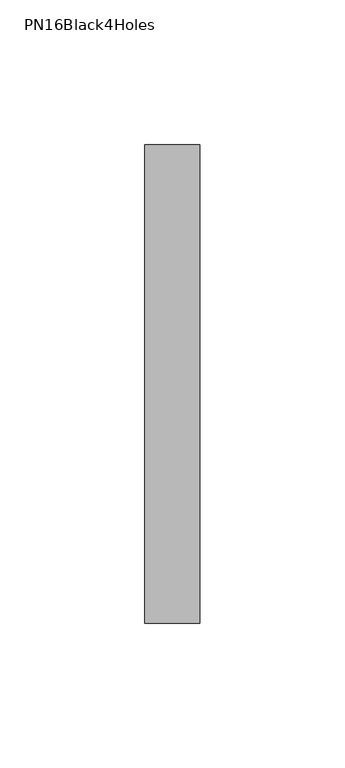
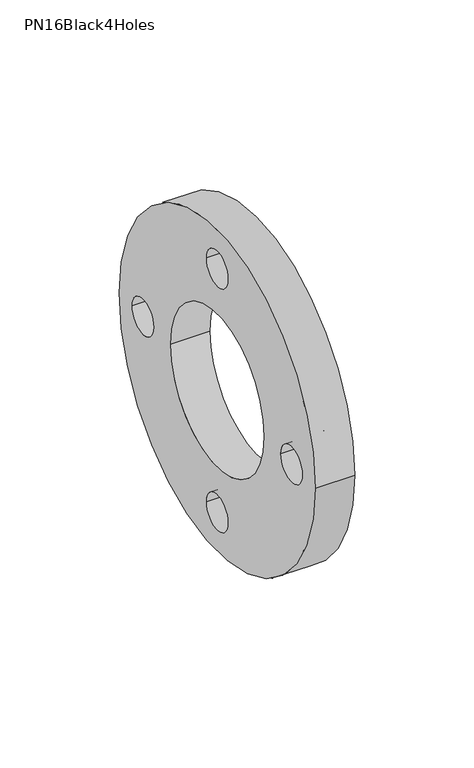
"""IFC4 building model written with IfcOpenShell, lengths in millimetres: pipe fitting geometry, PipeAccessory_GirpiHTA_CPVC_BackingRingsPN16Black4HolesFlangeAndGasket : PN16Black4Holes."""

from ifc_helpers import new_model, si_unit, point, frame, frame_2d, origin, origin_2d, place, context, project, spatial, circle_curve, trimmed, segment, composite_curve, outline, extrude, source, transform, mapped, element, save


def pn16black4holes_3e359ce1(model_context):
    return source(origin(), model_context, "Body", "SweptSolid", [
        extrude(outline(composite_curve([segment(trimmed(circle_curve(origin_2d(), 82.5), [point((-82.5, 0.0))], [point((82.5, 0.0))], False, "CARTESIAN"), True, "CONTINUOUS"), segment(trimmed(circle_curve(origin_2d(), 82.5), [point((82.5, 0.0))], [point((-82.5, 0.0))], False, "CARTESIAN"), True, "CONTINUOUS")], self_intersect=False), holes=[composite_curve([segment(trimmed(circle_curve(origin_2d(), 39.25), [point((-39.25, 0.0))], [point((39.25, 0.0))], True, "CARTESIAN"), True, "CONTINUOUS"), segment(trimmed(circle_curve(origin_2d(), 39.25), [point((39.25, 0.0))], [point((-39.25, 0.0))], True, "CARTESIAN"), True, "CONTINUOUS")], self_intersect=False), composite_curve([segment(trimmed(circle_curve(frame_2d((0.0, 62.5)), 9.0), [point((-9.0, 62.5))], [point((9.0, 62.5))], True, "CARTESIAN"), True, "CONTINUOUS"), segment(trimmed(circle_curve(frame_2d((0.0, 62.5)), 9.0), [point((9.0, 62.5))], [point((-9.0, 62.5))], True, "CARTESIAN"), True, "CONTINUOUS")], self_intersect=False), composite_curve([segment(trimmed(circle_curve(frame_2d((62.5, 0.0)), 9.0), [point((53.5, 0.0))], [point((71.5, 0.0))], True, "CARTESIAN"), True, "CONTINUOUS"), segment(trimmed(circle_curve(frame_2d((62.5, 0.0)), 9.0), [point((71.5, 0.0))], [point((53.5, 0.0))], True, "CARTESIAN"), True, "CONTINUOUS")], self_intersect=False), composite_curve([segment(trimmed(circle_curve(frame_2d((0.0, -62.5)), 9.0), [point((-9.0, -62.5))], [point((9.0, -62.5))], True, "CARTESIAN"), True, "CONTINUOUS"), segment(trimmed(circle_curve(frame_2d((0.0, -62.5)), 9.0), [point((9.0, -62.5))], [point((-9.0, -62.5))], True, "CARTESIAN"), True, "CONTINUOUS")], self_intersect=False), composite_curve([segment(trimmed(circle_curve(frame_2d((-62.5, 0.0)), 9.0), [point((-71.5, 0.0))], [point((-53.5, 0.0))], True, "CARTESIAN"), True, "CONTINUOUS"), segment(trimmed(circle_curve(frame_2d((-62.5, 0.0)), 9.0), [point((-53.5, 0.0))], [point((-71.5, 0.0))], True, "CARTESIAN"), True, "CONTINUOUS")], self_intersect=False)]), frame((-9.5, 0.0, 0.0), z_axis=(1.0, 0.0, 0.0), x_axis=(0.0, 1.0, 0.0)), (0.0, 0.0, 1.0), 19.0),
    ])


if __name__ == "__main__":
    model = new_model("IFC4")
    model_context = context("Model", 3, world=origin())
    ifc_project = project(units=[si_unit("LENGTHUNIT", "METRE", prefix="MILLI")], contexts=[model_context])
    site = spatial("IfcSite", under=ifc_project)
    building = spatial("IfcBuilding", under=site)
    placement = place(None, origin())
    pn16black4holes_shape = pn16black4holes_3e359ce1(model_context)
    element("IfcPipeFitting", 1, ObjectType="PipeAccessory_GirpiHTA_CPVC_BackingRingsPN16Black4HolesFlangeAndGasket : PN16Black4Holes", at=placement, inside=building, context=model_context, shape_type="MappedRepresentation", body=[
        mapped(pn16black4holes_shape, transform((0.0, 0.0, 0.0), x_axis=(1.0, 0.0, 0.0), y_axis=(0.0, 1.0, 0.0), z_axis=(0.0, 0.0, 1.0))),
    ])
    save(model, "model.ifc")
